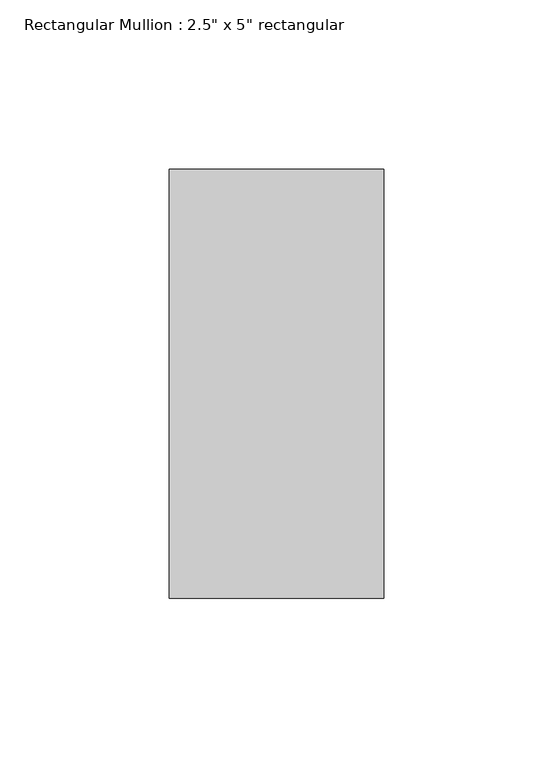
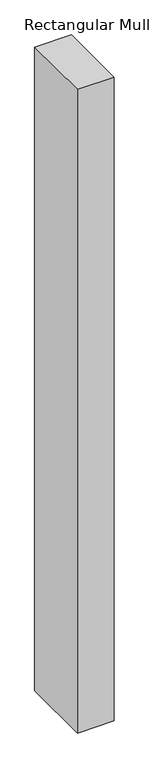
"""IFC4 building model written with IfcOpenShell, lengths in millimetres: member geometry."""

from ifc_helpers import new_model, si_unit, frame, origin, place, context, project, spatial, polyline, outline, extrude, source, transform, mapped, element, save


def member_3d1e61f0(model_context):
    return source(origin(), model_context, "Body", "SweptSolid", [
        extrude(outline(polyline([(0.0, 50.8), (0.0, -76.2), (-63.5, -76.2), (-63.5, 50.8), (0.0, 50.8)])), frame((0.0, 0.0, -1171.4278733), z_axis=(0.0, 0.0, 1.0), x_axis=(1.0, 0.0, 0.0)), (0.0, 0.0, 1.0), 1171.4278733),
    ])


if __name__ == "__main__":
    model = new_model("IFC4")
    model_context = context("Model", 3, world=origin())
    ifc_project = project(units=[si_unit("LENGTHUNIT", "METRE", prefix="MILLI")], contexts=[model_context])
    site = spatial("IfcSite", under=ifc_project)
    building = spatial("IfcBuilding", under=site)
    placement = place(None, origin())
    member_shape = member_3d1e61f0(model_context)
    element("IfcMember", 1, ObjectType="Rectangular Mullion : 2.5\" x 5\" rectangular", at=placement, inside=building, context=model_context, shape_type="MappedRepresentation", body=[
        mapped(member_shape, transform((0.0, 0.0, 0.0), x_axis=(1.0, 0.0, 0.0), y_axis=(0.0, 1.0, 0.0), z_axis=(0.0, 0.0, 1.0))),
    ])
    save(model, "model.ifc")
